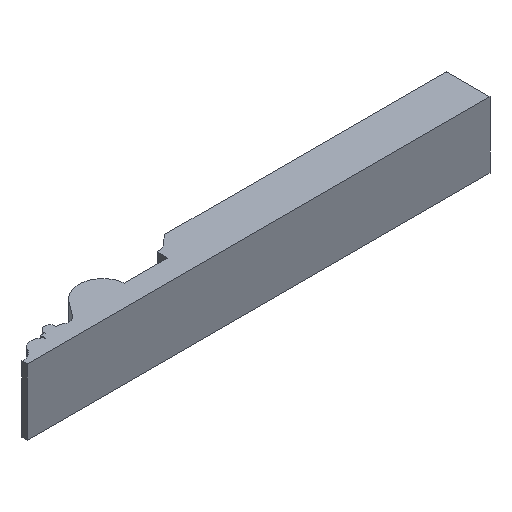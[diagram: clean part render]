
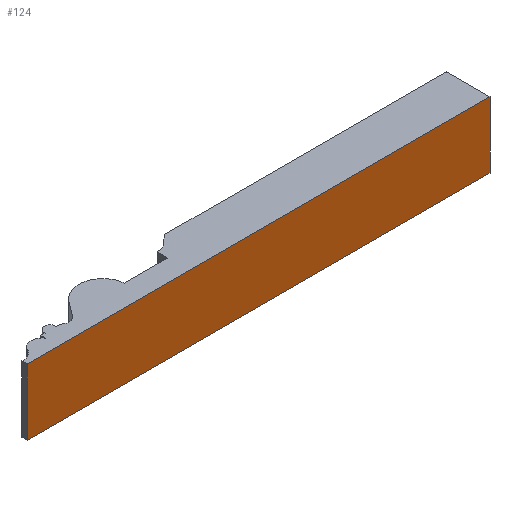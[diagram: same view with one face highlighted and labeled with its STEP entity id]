
A CAD part, isometric view. The second image highlights one B-rep face of the part: STEP entity #124.
In plain terms, the highlighted planar face has unit normal (0, -1, 0).
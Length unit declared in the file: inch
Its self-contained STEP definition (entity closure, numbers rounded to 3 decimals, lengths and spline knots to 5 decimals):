
#4 = EDGE_CURVE ( 'NONE', #219, #380, #245, .T. ) ;
#12 = CARTESIAN_POINT ( 'NONE',  ( -7., 0., -1. ) ) ;
#48 = DIRECTION ( 'NONE',  ( 0., -1., 0. ) ) ;
#66 = ORIENTED_EDGE ( 'NONE', *, *, #4, .T. ) ;
#95 = VECTOR ( 'NONE', #750, 39.37008 ) ;
#97 = PLANE ( 'NONE',  #386 ) ;
#120 = CARTESIAN_POINT ( 'NONE',  ( 0., 0., 0. ) ) ;
#124 = ADVANCED_FACE ( 'NONE', ( #439 ), #97, .T. ) ;
#157 = EDGE_CURVE ( 'NONE', #571, #380, #520, .T. ) ;
#219 = VERTEX_POINT ( 'NONE', #710 ) ;
#228 = CARTESIAN_POINT ( 'NONE',  ( 0., 0., -1. ) ) ;
#241 = ORIENTED_EDGE ( 'NONE', *, *, #783, .F. ) ;
#245 = LINE ( 'NONE', #686, #95 ) ;
#268 = VECTOR ( 'NONE', #272, 39.37008 ) ;
#271 = EDGE_CURVE ( 'NONE', #414, #219, #776, .T. ) ;
#272 = DIRECTION ( 'NONE',  ( 1., 0., 0. ) ) ;
#275 = DIRECTION ( 'NONE',  ( 1., 0., 0. ) ) ;
#323 = ORIENTED_EDGE ( 'NONE', *, *, #271, .T. ) ;
#380 = VERTEX_POINT ( 'NONE', #120 ) ;
#386 = AXIS2_PLACEMENT_3D ( 'NONE', #579, #48, #275 ) ;
#414 = VERTEX_POINT ( 'NONE', #598 ) ;
#439 = FACE_OUTER_BOUND ( 'NONE', #576, .T. ) ;
#478 = LINE ( 'NONE', #12, #485 ) ;
#485 = VECTOR ( 'NONE', #781, 39.37008 ) ;
#501 = CARTESIAN_POINT ( 'NONE',  ( -7., 0., 0. ) ) ;
#520 = LINE ( 'NONE', #575, #268 ) ;
#571 = VERTEX_POINT ( 'NONE', #501 ) ;
#575 = CARTESIAN_POINT ( 'NONE',  ( 0., 0., 0. ) ) ;
#576 = EDGE_LOOP ( 'NONE', ( #736, #241, #323, #66 ) ) ;
#579 = CARTESIAN_POINT ( 'NONE',  ( 0., 0., -1. ) ) ;
#598 = CARTESIAN_POINT ( 'NONE',  ( -7., 0., -1. ) ) ;
#643 = VECTOR ( 'NONE', #718, 39.37008 ) ;
#686 = CARTESIAN_POINT ( 'NONE',  ( 0., 0., -1. ) ) ;
#710 = CARTESIAN_POINT ( 'NONE',  ( 0., 0., -1. ) ) ;
#718 = DIRECTION ( 'NONE',  ( 1., 0., 0. ) ) ;
#736 = ORIENTED_EDGE ( 'NONE', *, *, #157, .F. ) ;
#750 = DIRECTION ( 'NONE',  ( 0., 0., 1. ) ) ;
#776 = LINE ( 'NONE', #228, #643 ) ;
#781 = DIRECTION ( 'NONE',  ( 0., 0., 1. ) ) ;
#783 = EDGE_CURVE ( 'NONE', #414, #571, #478, .T. ) ;
